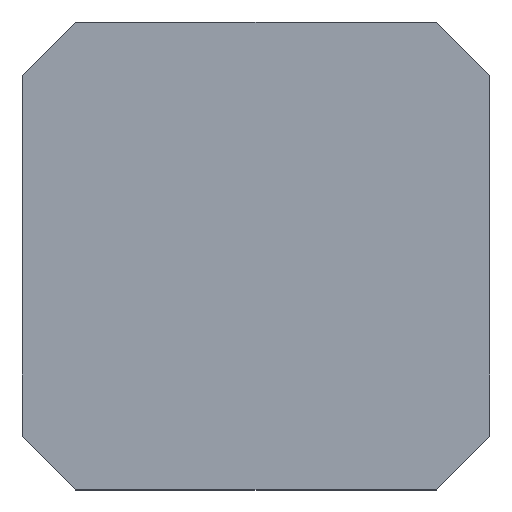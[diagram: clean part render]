
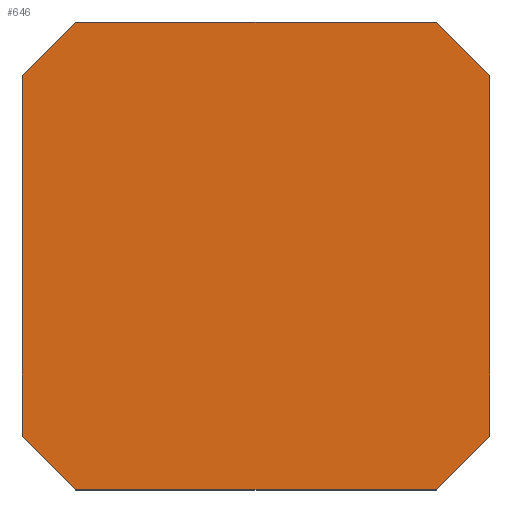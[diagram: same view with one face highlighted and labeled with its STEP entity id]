
A CAD part, top view. The second image highlights one B-rep face of the part: STEP entity #646.
In plain terms, the highlighted planar face has unit normal (0, 0, 1).
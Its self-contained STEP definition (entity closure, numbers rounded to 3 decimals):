
#24 = VERTEX_POINT('',#25);
#25 = CARTESIAN_POINT('',(-3.2,-4.15,4.));
#32 = PLANE('',#33);
#33 = AXIS2_PLACEMENT_3D('',#34,#35,#36);
#34 = CARTESIAN_POINT('',(-3.2,-4.15,0.15));
#35 = DIRECTION('',(0.,1.,0.));
#36 = DIRECTION('',(1.,0.,0.));
#44 = PLANE('',#45);
#45 = AXIS2_PLACEMENT_3D('',#46,#47,#48);
#46 = CARTESIAN_POINT('',(-4.15,-3.2,0.15));
#47 = DIRECTION('',(0.707,0.707,-0.));
#48 = DIRECTION('',(0.707,-0.707,0.));
#56 = EDGE_CURVE('',#24,#57,#59,.T.);
#57 = VERTEX_POINT('',#58);
#58 = CARTESIAN_POINT('',(3.2,-4.15,4.));
#59 = SURFACE_CURVE('',#60,(#64,#71),.PCURVE_S1.);
#60 = LINE('',#61,#62);
#61 = CARTESIAN_POINT('',(-3.2,-4.15,4.));
#62 = VECTOR('',#63,1.);
#63 = DIRECTION('',(1.,0.,0.));
#64 = PCURVE('',#32,#65);
#65 = DEFINITIONAL_REPRESENTATION('',(#66),#70);
#66 = LINE('',#67,#68);
#67 = CARTESIAN_POINT('',(0.,-3.85));
#68 = VECTOR('',#69,1.);
#69 = DIRECTION('',(1.,0.));
#70 = ( GEOMETRIC_REPRESENTATION_CONTEXT(2) 
PARAMETRIC_REPRESENTATION_CONTEXT() REPRESENTATION_CONTEXT('2D SPACE',''
  ) );
#71 = PCURVE('',#72,#77);
#72 = PLANE('',#73);
#73 = AXIS2_PLACEMENT_3D('',#74,#75,#76);
#74 = CARTESIAN_POINT('',(0.,0.,4.));
#75 = DIRECTION('',(0.,0.,1.));
#76 = DIRECTION('',(1.,0.,-0.));
#77 = DEFINITIONAL_REPRESENTATION('',(#78),#82);
#78 = LINE('',#79,#80);
#79 = CARTESIAN_POINT('',(-3.2,-4.15));
#80 = VECTOR('',#81,1.);
#81 = DIRECTION('',(1.,0.));
#82 = ( GEOMETRIC_REPRESENTATION_CONTEXT(2) 
PARAMETRIC_REPRESENTATION_CONTEXT() REPRESENTATION_CONTEXT('2D SPACE',''
  ) );
#100 = PLANE('',#101);
#101 = AXIS2_PLACEMENT_3D('',#102,#103,#104);
#102 = CARTESIAN_POINT('',(3.2,-4.15,0.15));
#103 = DIRECTION('',(-0.707,0.707,0.));
#104 = DIRECTION('',(0.707,0.707,0.));
#142 = EDGE_CURVE('',#57,#143,#145,.T.);
#143 = VERTEX_POINT('',#144);
#144 = CARTESIAN_POINT('',(4.15,-3.2,4.));
#145 = SURFACE_CURVE('',#146,(#150,#157),.PCURVE_S1.);
#146 = LINE('',#147,#148);
#147 = CARTESIAN_POINT('',(3.2,-4.15,4.));
#148 = VECTOR('',#149,1.);
#149 = DIRECTION('',(0.707,0.707,0.));
#150 = PCURVE('',#100,#151);
#151 = DEFINITIONAL_REPRESENTATION('',(#152),#156);
#152 = LINE('',#153,#154);
#153 = CARTESIAN_POINT('',(0.,-3.85));
#154 = VECTOR('',#155,1.);
#155 = DIRECTION('',(1.,0.));
#156 = ( GEOMETRIC_REPRESENTATION_CONTEXT(2) 
PARAMETRIC_REPRESENTATION_CONTEXT() REPRESENTATION_CONTEXT('2D SPACE',''
  ) );
#157 = PCURVE('',#72,#158);
#158 = DEFINITIONAL_REPRESENTATION('',(#159),#163);
#159 = LINE('',#160,#161);
#160 = CARTESIAN_POINT('',(3.2,-4.15));
#161 = VECTOR('',#162,1.);
#162 = DIRECTION('',(0.707,0.707));
#163 = ( GEOMETRIC_REPRESENTATION_CONTEXT(2) 
PARAMETRIC_REPRESENTATION_CONTEXT() REPRESENTATION_CONTEXT('2D SPACE',''
  ) );
#181 = PLANE('',#182);
#182 = AXIS2_PLACEMENT_3D('',#183,#184,#185);
#183 = CARTESIAN_POINT('',(4.15,-3.2,0.15));
#184 = DIRECTION('',(-1.,0.,0.));
#185 = DIRECTION('',(0.,1.,0.));
#218 = EDGE_CURVE('',#143,#219,#221,.T.);
#219 = VERTEX_POINT('',#220);
#220 = CARTESIAN_POINT('',(4.15,3.2,4.));
#221 = SURFACE_CURVE('',#222,(#226,#233),.PCURVE_S1.);
#222 = LINE('',#223,#224);
#223 = CARTESIAN_POINT('',(4.15,-3.2,4.));
#224 = VECTOR('',#225,1.);
#225 = DIRECTION('',(0.,1.,0.));
#226 = PCURVE('',#181,#227);
#227 = DEFINITIONAL_REPRESENTATION('',(#228),#232);
#228 = LINE('',#229,#230);
#229 = CARTESIAN_POINT('',(0.,-3.85));
#230 = VECTOR('',#231,1.);
#231 = DIRECTION('',(1.,0.));
#232 = ( GEOMETRIC_REPRESENTATION_CONTEXT(2) 
PARAMETRIC_REPRESENTATION_CONTEXT() REPRESENTATION_CONTEXT('2D SPACE',''
  ) );
#233 = PCURVE('',#72,#234);
#234 = DEFINITIONAL_REPRESENTATION('',(#235),#239);
#235 = LINE('',#236,#237);
#236 = CARTESIAN_POINT('',(4.15,-3.2));
#237 = VECTOR('',#238,1.);
#238 = DIRECTION('',(0.,1.));
#239 = ( GEOMETRIC_REPRESENTATION_CONTEXT(2) 
PARAMETRIC_REPRESENTATION_CONTEXT() REPRESENTATION_CONTEXT('2D SPACE',''
  ) );
#257 = PLANE('',#258);
#258 = AXIS2_PLACEMENT_3D('',#259,#260,#261);
#259 = CARTESIAN_POINT('',(4.15,3.2,0.15));
#260 = DIRECTION('',(-0.707,-0.707,0.));
#261 = DIRECTION('',(-0.707,0.707,0.));
#294 = EDGE_CURVE('',#219,#295,#297,.T.);
#295 = VERTEX_POINT('',#296);
#296 = CARTESIAN_POINT('',(3.2,4.15,4.));
#297 = SURFACE_CURVE('',#298,(#302,#309),.PCURVE_S1.);
#298 = LINE('',#299,#300);
#299 = CARTESIAN_POINT('',(4.15,3.2,4.));
#300 = VECTOR('',#301,1.);
#301 = DIRECTION('',(-0.707,0.707,0.));
#302 = PCURVE('',#257,#303);
#303 = DEFINITIONAL_REPRESENTATION('',(#304),#308);
#304 = LINE('',#305,#306);
#305 = CARTESIAN_POINT('',(0.,-3.85));
#306 = VECTOR('',#307,1.);
#307 = DIRECTION('',(1.,0.));
#308 = ( GEOMETRIC_REPRESENTATION_CONTEXT(2) 
PARAMETRIC_REPRESENTATION_CONTEXT() REPRESENTATION_CONTEXT('2D SPACE',''
  ) );
#309 = PCURVE('',#72,#310);
#310 = DEFINITIONAL_REPRESENTATION('',(#311),#315);
#311 = LINE('',#312,#313);
#312 = CARTESIAN_POINT('',(4.15,3.2));
#313 = VECTOR('',#314,1.);
#314 = DIRECTION('',(-0.707,0.707));
#315 = ( GEOMETRIC_REPRESENTATION_CONTEXT(2) 
PARAMETRIC_REPRESENTATION_CONTEXT() REPRESENTATION_CONTEXT('2D SPACE',''
  ) );
#333 = PLANE('',#334);
#334 = AXIS2_PLACEMENT_3D('',#335,#336,#337);
#335 = CARTESIAN_POINT('',(3.2,4.15,0.15));
#336 = DIRECTION('',(0.,-1.,0.));
#337 = DIRECTION('',(-1.,0.,0.));
#370 = EDGE_CURVE('',#295,#371,#373,.T.);
#371 = VERTEX_POINT('',#372);
#372 = CARTESIAN_POINT('',(-3.2,4.15,4.));
#373 = SURFACE_CURVE('',#374,(#378,#385),.PCURVE_S1.);
#374 = LINE('',#375,#376);
#375 = CARTESIAN_POINT('',(3.2,4.15,4.));
#376 = VECTOR('',#377,1.);
#377 = DIRECTION('',(-1.,0.,0.));
#378 = PCURVE('',#333,#379);
#379 = DEFINITIONAL_REPRESENTATION('',(#380),#384);
#380 = LINE('',#381,#382);
#381 = CARTESIAN_POINT('',(0.,-3.85));
#382 = VECTOR('',#383,1.);
#383 = DIRECTION('',(1.,0.));
#384 = ( GEOMETRIC_REPRESENTATION_CONTEXT(2) 
PARAMETRIC_REPRESENTATION_CONTEXT() REPRESENTATION_CONTEXT('2D SPACE',''
  ) );
#385 = PCURVE('',#72,#386);
#386 = DEFINITIONAL_REPRESENTATION('',(#387),#391);
#387 = LINE('',#388,#389);
#388 = CARTESIAN_POINT('',(3.2,4.15));
#389 = VECTOR('',#390,1.);
#390 = DIRECTION('',(-1.,0.));
#391 = ( GEOMETRIC_REPRESENTATION_CONTEXT(2) 
PARAMETRIC_REPRESENTATION_CONTEXT() REPRESENTATION_CONTEXT('2D SPACE',''
  ) );
#409 = PLANE('',#410);
#410 = AXIS2_PLACEMENT_3D('',#411,#412,#413);
#411 = CARTESIAN_POINT('',(-3.2,4.15,0.15));
#412 = DIRECTION('',(0.707,-0.707,0.));
#413 = DIRECTION('',(-0.707,-0.707,0.));
#446 = EDGE_CURVE('',#371,#447,#449,.T.);
#447 = VERTEX_POINT('',#448);
#448 = CARTESIAN_POINT('',(-4.15,3.2,4.));
#449 = SURFACE_CURVE('',#450,(#454,#461),.PCURVE_S1.);
#450 = LINE('',#451,#452);
#451 = CARTESIAN_POINT('',(-3.2,4.15,4.));
#452 = VECTOR('',#453,1.);
#453 = DIRECTION('',(-0.707,-0.707,0.));
#454 = PCURVE('',#409,#455);
#455 = DEFINITIONAL_REPRESENTATION('',(#456),#460);
#456 = LINE('',#457,#458);
#457 = CARTESIAN_POINT('',(0.,-3.85));
#458 = VECTOR('',#459,1.);
#459 = DIRECTION('',(1.,0.));
#460 = ( GEOMETRIC_REPRESENTATION_CONTEXT(2) 
PARAMETRIC_REPRESENTATION_CONTEXT() REPRESENTATION_CONTEXT('2D SPACE',''
  ) );
#461 = PCURVE('',#72,#462);
#462 = DEFINITIONAL_REPRESENTATION('',(#463),#467);
#463 = LINE('',#464,#465);
#464 = CARTESIAN_POINT('',(-3.2,4.15));
#465 = VECTOR('',#466,1.);
#466 = DIRECTION('',(-0.707,-0.707));
#467 = ( GEOMETRIC_REPRESENTATION_CONTEXT(2) 
PARAMETRIC_REPRESENTATION_CONTEXT() REPRESENTATION_CONTEXT('2D SPACE',''
  ) );
#485 = PLANE('',#486);
#486 = AXIS2_PLACEMENT_3D('',#487,#488,#489);
#487 = CARTESIAN_POINT('',(-4.15,3.2,0.15));
#488 = DIRECTION('',(1.,0.,-0.));
#489 = DIRECTION('',(0.,-1.,0.));
#522 = EDGE_CURVE('',#447,#523,#525,.T.);
#523 = VERTEX_POINT('',#524);
#524 = CARTESIAN_POINT('',(-4.15,-3.2,4.));
#525 = SURFACE_CURVE('',#526,(#530,#537),.PCURVE_S1.);
#526 = LINE('',#527,#528);
#527 = CARTESIAN_POINT('',(-4.15,3.2,4.));
#528 = VECTOR('',#529,1.);
#529 = DIRECTION('',(0.,-1.,0.));
#530 = PCURVE('',#485,#531);
#531 = DEFINITIONAL_REPRESENTATION('',(#532),#536);
#532 = LINE('',#533,#534);
#533 = CARTESIAN_POINT('',(0.,-3.85));
#534 = VECTOR('',#535,1.);
#535 = DIRECTION('',(1.,0.));
#536 = ( GEOMETRIC_REPRESENTATION_CONTEXT(2) 
PARAMETRIC_REPRESENTATION_CONTEXT() REPRESENTATION_CONTEXT('2D SPACE',''
  ) );
#537 = PCURVE('',#72,#538);
#538 = DEFINITIONAL_REPRESENTATION('',(#539),#543);
#539 = LINE('',#540,#541);
#540 = CARTESIAN_POINT('',(-4.15,3.2));
#541 = VECTOR('',#542,1.);
#542 = DIRECTION('',(0.,-1.));
#543 = ( GEOMETRIC_REPRESENTATION_CONTEXT(2) 
PARAMETRIC_REPRESENTATION_CONTEXT() REPRESENTATION_CONTEXT('2D SPACE',''
  ) );
#593 = EDGE_CURVE('',#523,#24,#594,.T.);
#594 = SURFACE_CURVE('',#595,(#599,#606),.PCURVE_S1.);
#595 = LINE('',#596,#597);
#596 = CARTESIAN_POINT('',(-4.15,-3.2,4.));
#597 = VECTOR('',#598,1.);
#598 = DIRECTION('',(0.707,-0.707,0.));
#599 = PCURVE('',#44,#600);
#600 = DEFINITIONAL_REPRESENTATION('',(#601),#605);
#601 = LINE('',#602,#603);
#602 = CARTESIAN_POINT('',(0.,-3.85));
#603 = VECTOR('',#604,1.);
#604 = DIRECTION('',(1.,0.));
#605 = ( GEOMETRIC_REPRESENTATION_CONTEXT(2) 
PARAMETRIC_REPRESENTATION_CONTEXT() REPRESENTATION_CONTEXT('2D SPACE',''
  ) );
#606 = PCURVE('',#72,#607);
#607 = DEFINITIONAL_REPRESENTATION('',(#608),#612);
#608 = LINE('',#609,#610);
#609 = CARTESIAN_POINT('',(-4.15,-3.2));
#610 = VECTOR('',#611,1.);
#611 = DIRECTION('',(0.707,-0.707));
#612 = ( GEOMETRIC_REPRESENTATION_CONTEXT(2) 
PARAMETRIC_REPRESENTATION_CONTEXT() REPRESENTATION_CONTEXT('2D SPACE',''
  ) );
#646 = ADVANCED_FACE('',(#647),#72,.T.);
#647 = FACE_BOUND('',#648,.T.);
#648 = EDGE_LOOP('',(#649,#650,#651,#652,#653,#654,#655,#656));
#649 = ORIENTED_EDGE('',*,*,#56,.T.);
#650 = ORIENTED_EDGE('',*,*,#142,.T.);
#651 = ORIENTED_EDGE('',*,*,#218,.T.);
#652 = ORIENTED_EDGE('',*,*,#294,.T.);
#653 = ORIENTED_EDGE('',*,*,#370,.T.);
#654 = ORIENTED_EDGE('',*,*,#446,.T.);
#655 = ORIENTED_EDGE('',*,*,#522,.T.);
#656 = ORIENTED_EDGE('',*,*,#593,.T.);
